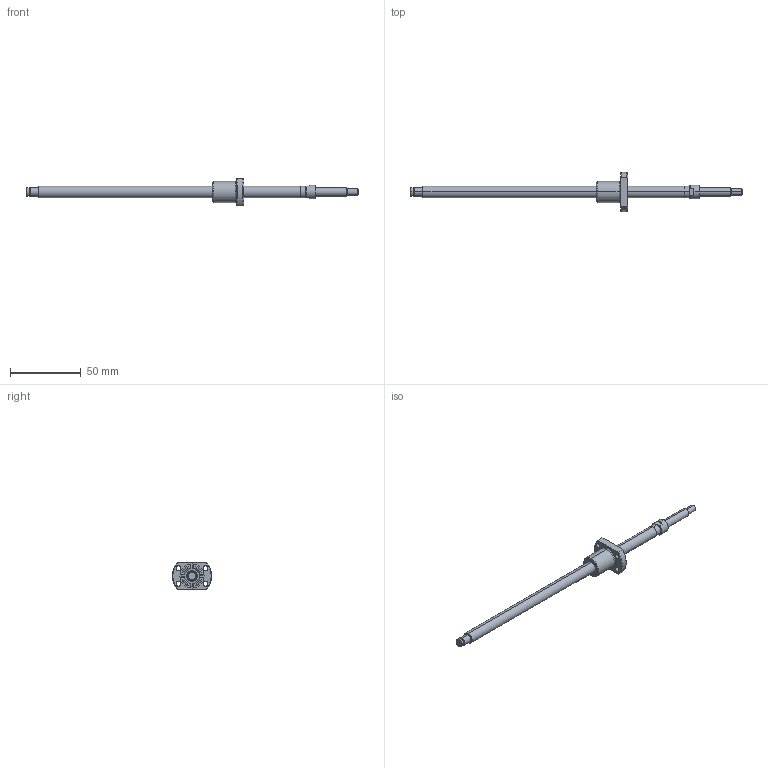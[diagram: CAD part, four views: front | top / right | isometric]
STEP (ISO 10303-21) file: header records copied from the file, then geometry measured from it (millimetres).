
FILE_DESCRIPTION (( 'STEP AP214' ), '1' );
FILE_NAME ('BS0802K-3D.STEP', '2014-03-05T15:09:58', ( '' ), ( '' ), 'SwSTEP 2.0', 'SolidWorks 2012', '' );
FILE_SCHEMA (( 'AUTOMOTIVE_DESIGN' ));
Length unit declared in the file: millimetre
Products named in the file (3): BS0802Kナット; BS0802KŽ²; BS0802K-3D
Assembly tree (2 placements, depth 2):
  BS0802K-3D
    BS0802KŽ²
    BS0802Kナット
Bounding box: 235 x 27.9 x 19 mm (x, y, z)
Volume: 22031.5 mm3; surface area: 13385.1 mm2
Topology: 5 solids, 5 shells, 102 faces, 220 edges, 140 vertices
Faces by surface type: cylinder 48, plane 28, cone 26
Entity records: 2987 total; most frequent: DIRECTION 548, CARTESIAN_POINT 503, ORIENTED_EDGE 440, AXIS2_PLACEMENT_3D 233, EDGE_CURVE 220, VERTEX_POINT 140, EDGE_LOOP 128, CIRCLE 126
